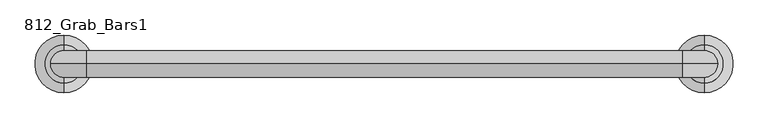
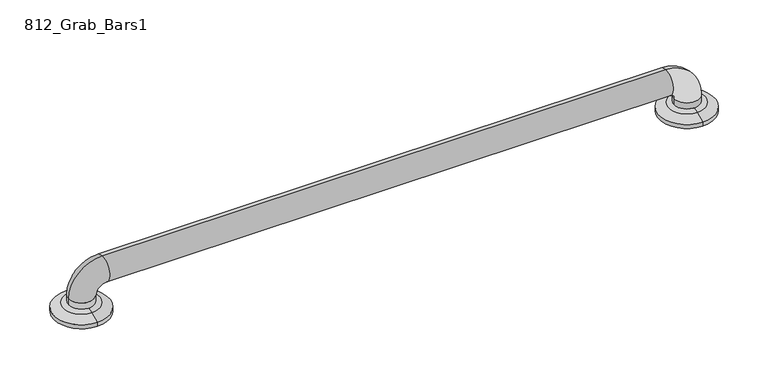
"""IFC4 building model written with IfcOpenShell, lengths in millimetres: proxy geometry, 812_Grab_Bars1 : 8122-001360."""

import ifcopenshell
import ifcopenshell.guid

model = None  # the IFC model being written
_history = None  # IfcOwnerHistory: only IFC2X3 demands one
_inside = {}  # id of a spatial element -> (the spatial element, [elements in it])
_under = {}  # id of a project, library or spatial element -> (it, [spatial elements below it])
_declared = {}  # id of a project -> (the project, [libraries it declares])
_typed = {}  # id of a type object -> (the type object, [elements of that type])
_made_of = {}  # id of a material, layer set ... -> (it, [elements and type objects made of it])


def new_model(schema):
    """Start an empty IFC model of exactly this schema.

    Asked for "IFC4X3", IfcOpenShell would pick the latest addendum, in which some entities
    have other attributes; the version numbers below select the first issue.
    IFC2X3 requires an IfcOwnerHistory on every rooted entity: one is made here for all.
    """
    global model, _history
    if schema == "IFC4X3":
        model = ifcopenshell.file(schema_version=(4, 3, 0, 0))
    else:
        model = ifcopenshell.file(schema=schema)
    _inside.clear()
    _under.clear()
    _declared.clear()
    _typed.clear()
    _made_of.clear()
    _history = None
    if model.schema == "IFC2X3":
        org = make("IfcOrganization", Name="unknown")
        user = make(
            "IfcPersonAndOrganization",
            ThePerson=make("IfcPerson", FamilyName="unknown"),
            TheOrganization=org,
        )
        app = make(
            "IfcApplication",
            ApplicationDeveloper=org,
            Version="unknown",
            ApplicationFullName="unknown",
            ApplicationIdentifier="unknown",
        )
        _history = make(
            "IfcOwnerHistory",
            OwningUser=user,
            OwningApplication=app,
            ChangeAction="ADDED",
            CreationDate=0,
        )
    return model


def make(cls, **values):
    """One entity of the class cls with the attributes given. An attribute that is None is left unset."""
    return model.create_entity(
        cls, **{name: value for name, value in values.items() if value is not None}
    )


def rooted(cls, **values):
    """An entity with a GlobalId (a new one), such as an element, a storey or a relation."""
    return make(cls, GlobalId=ifcopenshell.guid.new(), OwnerHistory=_history, **values)


def si_unit(unit_type, name, prefix=None):
    """IfcSIUnit, for example si_unit("LENGTHUNIT", "METRE", prefix="MILLI")."""
    return make("IfcSIUnit", UnitType=unit_type, Prefix=prefix, Name=name)


def assignment(units):
    """IfcUnitAssignment: the units of a project."""
    return None if units is None else make("IfcUnitAssignment", Units=units)


def point(xyz):
    """IfcCartesianPoint."""
    return None if xyz is None else make("IfcCartesianPoint", Coordinates=xyz)


def direction(xyz):
    """IfcDirection."""
    return None if xyz is None else make("IfcDirection", DirectionRatios=xyz)


def frame(location, z_axis=None, x_axis=None):
    """IfcAxis2Placement3D, a coordinate frame: its origin and axes. An axis left out is left unset."""
    return make(
        "IfcAxis2Placement3D",
        Location=point(location),
        Axis=direction(z_axis),
        RefDirection=direction(x_axis),
    )


def origin():
    """The frame at (0, 0, 0) with its axes left unset."""
    return frame((0.0, 0.0, 0.0))


def place(relative_to, where):
    """IfcLocalPlacement: puts the frame where relative to a parent placement (None: the world)."""
    return make(
        "IfcLocalPlacement", PlacementRelTo=relative_to, RelativePlacement=where
    )


def context(
    kind, dimensions, precision=None, world=None, true_north=None, identifier=None
):
    """IfcGeometricRepresentationContext, for example the 3D "Model" context."""
    return make(
        "IfcGeometricRepresentationContext",
        ContextIdentifier=identifier,
        ContextType=kind,
        CoordinateSpaceDimension=dimensions,
        Precision=precision,
        WorldCoordinateSystem=world,
        TrueNorth=true_north,
    )


def project(units=None, contexts=None):
    """IfcProject with its units and contexts."""
    return rooted(
        "IfcProject",
        Name="project",
        RepresentationContexts=contexts,
        UnitsInContext=assignment(units),
    )


def spatial(cls, under=None, at=None, **own):
    """A site, building, storey or space (cls), placed at a placement, below another one or the project."""
    s = rooted(cls, ObjectPlacement=at, **own)
    if under is not None:
        _under.setdefault(under.id(), (under, []))[1].append(s)
    return s


def polyline(points):
    """IfcPolyline through the points."""
    return make("IfcPolyline", Points=[point(p) for p in points])


def circle_curve(where, radius):
    """IfcCircle in the frame where."""
    return make("IfcCircle", Position=where, Radius=radius)


def ellipse_curve(where, semi_axis1, semi_axis2):
    """IfcEllipse in the frame where."""
    return make(
        "IfcEllipse", Position=where, SemiAxis1=semi_axis1, SemiAxis2=semi_axis2
    )


def trimmed(basis, trim1, trim2, sense, master):
    """IfcTrimmedCurve: the piece of a basis curve between two trims."""
    return make(
        "IfcTrimmedCurve",
        BasisCurve=basis,
        Trim1=trim1,
        Trim2=trim2,
        SenseAgreement=sense,
        MasterRepresentation=master,
    )


def shape(context_of_items, identifier, shape_type, items):
    """IfcShapeRepresentation: the items that make up one representation, for example the "Body"."""
    return make(
        "IfcShapeRepresentation",
        ContextOfItems=context_of_items,
        RepresentationIdentifier=identifier,
        RepresentationType=shape_type,
        Items=items,
    )


def source(mapping_origin, context_of_items, identifier, shape_type, items):
    """IfcRepresentationMap: a shape defined once, which mapped items show again and again."""
    return make(
        "IfcRepresentationMap",
        MappingOrigin=mapping_origin,
        MappedRepresentation=shape(context_of_items, identifier, shape_type, items),
    )


def transform(
    local_origin,
    x_axis=None,
    y_axis=None,
    z_axis=None,
    scale=None,
    scale2=None,
    scale3=None,
    uniform=True,
):
    """IfcCartesianTransformationOperator3D, or its non-uniform kind. x_axis, y_axis, z_axis: its Axis1, 2, 3."""
    if uniform:
        return make(
            "IfcCartesianTransformationOperator3D",
            Axis1=direction(x_axis),
            Axis2=direction(y_axis),
            LocalOrigin=point(local_origin),
            Scale=scale,
            Axis3=direction(z_axis),
        )
    return make(
        "IfcCartesianTransformationOperator3DnonUniform",
        Axis1=direction(x_axis),
        Axis2=direction(y_axis),
        LocalOrigin=point(local_origin),
        Scale=scale,
        Axis3=direction(z_axis),
        Scale2=scale2,
        Scale3=scale3,
    )


def mapped(mapping_source, mapping_target):
    """IfcMappedItem: shows the shape of a source again, moved by a transform."""
    return make(
        "IfcMappedItem", MappingSource=mapping_source, MappingTarget=mapping_target
    )


def made_of(thing, what):
    """Note that an element or type object is made of a material, layer set ...; save() writes the relation."""
    if what is not None:
        _made_of.setdefault(what.id(), (what, []))[1].append(thing)
    return thing


def element(
    cls,
    number,
    at=None,
    inside=None,
    cuts=None,
    type_object=None,
    material=None,
    context=None,
    identifier="Body",
    shape_type=None,
    held_by="IfcProductDefinitionShape",
    body=None,
    shapes=None,
    **own,
):
    """One element of the class cls, such as IfcWall. Its Tag is "e" and its number.

    at: its placement. inside: the storey or other place that contains it. cuts: it is an
    opening in that element (IfcRelVoidsElement). A single representation is given by context,
    identifier, shape_type and body (its items); several are given by shapes. held_by: the class
    of the entity that holds the representations. save() writes the other relations.
    """
    e = rooted(cls, Tag="e%d" % number, ObjectPlacement=at, **own)
    if body is not None:
        shapes = [shape(context, identifier, shape_type, body)]
    if shapes is not None:
        e.Representation = make(held_by, Representations=shapes)
    if inside is not None:
        _inside.setdefault(inside.id(), (inside, []))[1].append(e)
    if cuts is not None:
        rooted(
            "IfcRelVoidsElement", RelatingBuildingElement=cuts, RelatedOpeningElement=e
        )
    if type_object is not None:
        _typed.setdefault(type_object.id(), (type_object, []))[1].append(e)
    return made_of(e, material)


def aggregate(whole, parts):
    """IfcRelAggregates: a whole, such as a stair, and the parts it consists of."""
    return rooted("IfcRelAggregates", RelatingObject=whole, RelatedObjects=parts)


def save(model, path):
    """Write the relations noted so far, then the file.

    IfcRelAggregates (storeys below a building ...), IfcRelContainedInSpatialStructure (elements
    in a storey), IfcRelDefinesByType, IfcRelAssociatesMaterial and IfcRelDeclares: one each for
    every whole, place, type object, material and project.
    """
    for whole, parts in _under.values():
        aggregate(whole, parts)
    for where, things in _inside.values():
        rooted(
            "IfcRelContainedInSpatialStructure",
            RelatedElements=things,
            RelatingStructure=where,
        )
    for kind, things in _typed.values():
        rooted("IfcRelDefinesByType", RelatedObjects=things, RelatingType=kind)
    for what, things in _made_of.values():
        rooted("IfcRelAssociatesMaterial", RelatedObjects=things, RelatingMaterial=what)
    for by, libraries in _declared.values():
        rooted("IfcRelDeclares", RelatingContext=by, RelatedDefinitions=libraries)
    model.write(path)


def plane_surface(at):
    """IfcPlane: the flat surface through the origin of the frame at, square to its z axis."""
    return make("IfcPlane", Position=at)


def cylinder_surface(at, radius):
    """IfcCylindricalSurface: all points at the distance radius from the z axis of the frame at."""
    return make("IfcCylindricalSurface", Position=at, Radius=radius)


def revolved_surface(curve, axis_point, axis_direction):
    """IfcSurfaceOfRevolution: the curve turned about the line through axis_point along axis_direction."""
    return make(
        "IfcSurfaceOfRevolution",
        SweptCurve=make("IfcArbitraryOpenProfileDef", ProfileType="CURVE", Curve=curve),
        AxisPosition=make("IfcAxis1Placement", Location=point(axis_point), Axis=direction(axis_direction)),
    )


def advanced_brep(points, edges, surfaces, faces):
    """IfcAdvancedBrep: a solid bounded by faces that lie on surfaces and meet in shared edges.

    An edge is (start, end): straight between two places in points (the first is 0);
    or (start, end, curve); or (start, end, curve, False) where it runs against its curve.
    A face is (place in surfaces, loops), or (place, loops, False) where it looks against
    its surface's normal. A loop lists edges by number (the first is 1), with a minus sign
    where the edge is run from its end to its start. The first loop is the outer one.
    """
    corners = [point(p) for p in points]
    vertices = [make("IfcVertexPoint", VertexGeometry=c) for c in corners]
    made = []
    for start, end, *more in edges:
        made.append(
            make(
                "IfcEdgeCurve",
                EdgeStart=vertices[start],
                EdgeEnd=vertices[end],
                EdgeGeometry=more[0] if more else make("IfcPolyline", Points=[corners[start], corners[end]]),
                SameSense=more[1] if len(more) > 1 else True,
            )
        )
    hull = []
    for where, loops, *sense in faces:
        bounds = []
        for j, loop in enumerate(loops):
            ring = [make("IfcOrientedEdge", EdgeElement=made[abs(k) - 1], Orientation=k > 0) for k in loop]
            bounds.append(
                make(
                    "IfcFaceOuterBound" if j == 0 else "IfcFaceBound",
                    Bound=make("IfcEdgeLoop", EdgeList=ring),
                    Orientation=True,
                )
            )
        hull.append(make("IfcAdvancedFace", Bounds=bounds, FaceSurface=surfaces[where], SameSense=sense[0] if sense else True))
    return make("IfcAdvancedBrep", Outer=make("IfcClosedShell", CfsFaces=hull))


def proxy_812_grab_bars1_0ab72b95(model_context):
    return source(origin(), model_context, "Body", "AdvancedBrep", [
        advanced_brep(
        [(-401.6375, 564.1630987, 13.1934507), (-401.6375, 577.85, 6.35), (-401.6375, 495.3, 6.35), (-401.6375, 508.9869013, 13.1934507), (-401.6375, 517.525, 15.7178454), (-420.6875, 536.575, 15.7178454), (-401.6375, 555.625, 15.7178454), (-382.5875, 536.575, 15.7178454), (-401.6375, 577.85, 0.0), (-401.6375, 555.625, 0.0), (-401.6375, 536.575, 0.0), (-401.6375, 517.525, 0.0), (-401.6375, 495.3, 0.0), (-420.6875, 536.575, 25.4), (-382.5875, 536.575, 25.4), (-369.8875, 536.575, 38.1), (-369.8875, 536.575, 76.2), (481.0125, 536.575, 38.1), (481.0125, 536.575, 76.2), (493.7125, 536.575, 25.4), (531.8125, 536.575, 25.4), (512.7625, 577.85, 0.0), (512.7625, 495.3, 0.0), (493.7125, 536.575, 15.7178454), (512.7625, 517.525, 15.7178454), (531.8125, 536.575, 15.7178454), (512.7625, 555.625, 15.7178454), (512.7625, 564.1630987, 13.1934507), (512.7625, 577.85, 6.35), (512.7625, 495.3, 6.35), (512.7625, 508.9869013, 13.1934507)],
        [
            (0, 1),
            (1, 2, circle_curve(frame((-401.6375, 536.575, 6.35), z_axis=(0.0, 0.0, 1.0), x_axis=(0.0, -1.0, 0.0)), 41.275)),
            (2, 3),
            (3, 0, circle_curve(frame((-401.6375, 536.575, 13.1934507), z_axis=(0.0, 0.0, -1.0), x_axis=(0.0, -1.0, 0.0)), 27.5880987)),
            (2, 1, circle_curve(frame((-401.6375, 536.575, 6.35), z_axis=(0.0, 0.0, 1.0), x_axis=(0.0, -1.0, 0.0)), 41.275)),
            (0, 3, circle_curve(frame((-401.6375, 536.575, 13.1934507), z_axis=(0.0, 0.0, -1.0), x_axis=(0.0, -1.0, 0.0)), 27.5880987)),
            (3, 4, circle_curve(frame((-401.6375, 520.3461266, -9.525), z_axis=(-1.0, 0.0, 0.0), x_axis=(0.0, 0.0, -1.0)), 25.4)),
            (4, 5, circle_curve(frame((-401.6375, 536.575, 15.7178454), z_axis=(0.0, 0.0, -1.0), x_axis=(0.0, -1.0, 0.0)), 19.05)),
            (5, 6, circle_curve(frame((-401.6375, 536.575, 15.7178454), z_axis=(0.0, 0.0, -1.0), x_axis=(0.0, -1.0, 0.0)), 19.05)),
            (6, 0, circle_curve(frame((-401.6375, 552.8038734, -9.525), z_axis=(-1.0, 0.0, 0.0), x_axis=(0.0, 0.0, -1.0)), 25.4)),
            (6, 7, circle_curve(frame((-401.6375, 536.575, 15.7178454), z_axis=(0.0, 0.0, -1.0), x_axis=(0.0, -1.0, 0.0)), 19.05)),
            (7, 4, circle_curve(frame((-401.6375, 536.575, 15.7178454), z_axis=(0.0, 0.0, -1.0), x_axis=(0.0, -1.0, 0.0)), 19.05)),
            (8, 9),
            (9, 10),
            (10, 11),
            (11, 12),
            (12, 8, circle_curve(frame((-401.6375, 536.575, 0.0), z_axis=(0.0, 0.0, -1.0), x_axis=(0.0, -1.0, 0.0)), 41.275)),
            (8, 12, circle_curve(frame((-401.6375, 536.575, 0.0), z_axis=(0.0, 0.0, -1.0), x_axis=(0.0, -1.0, 0.0)), 41.275)),
            (1, 8),
            (12, 2),
            (13, 5),
            (7, 14),
            (14, 13, circle_curve(frame((-401.6375, 536.575, 25.4), z_axis=(0.0, 0.0, -1.0), x_axis=(1.0, 0.0, 0.0)), 19.05)),
            (13, 14, circle_curve(frame((-401.6375, 536.575, 25.4), z_axis=(0.0, 0.0, -1.0), x_axis=(1.0, 0.0, 0.0)), 19.05)),
            (14, 15, circle_curve(frame((-369.8875, 536.575, 25.4), z_axis=(0.0, 1.0, 0.0), x_axis=(-1.0, 0.0, 0.0)), 12.7)),
            (15, 16, circle_curve(frame((-369.8875, 536.575, 57.15), z_axis=(-1.0, 0.0, 0.0), x_axis=(0.0, 0.0, -1.0)), 19.05)),
            (16, 13, circle_curve(frame((-369.8875, 536.575, 25.4), z_axis=(0.0, -1.0, 0.0), x_axis=(-1.0, 0.0, 0.0)), 50.8)),
            (16, 15, circle_curve(frame((-369.8875, 536.575, 57.15), z_axis=(-1.0, 0.0, 0.0), x_axis=(0.0, 0.0, -1.0)), 19.05)),
            (15, 17),
            (17, 18, circle_curve(frame((481.0125, 536.575, 57.15), z_axis=(-1.0, 0.0, 0.0), x_axis=(0.0, 0.0, -1.0)), 19.05)),
            (18, 16),
            (18, 17, circle_curve(frame((481.0125, 536.575, 57.15), z_axis=(-1.0, 0.0, 0.0), x_axis=(0.0, 0.0, -1.0)), 19.05)),
            (17, 19, circle_curve(frame((481.0125, 536.575, 25.4), z_axis=(0.0, 1.0, 0.0), x_axis=(0.0, 0.0, 1.0)), 12.7)),
            (19, 20, circle_curve(frame((512.7625, 536.575, 25.4), z_axis=(0.0, 0.0, 1.0), x_axis=(-1.0, 0.0, 0.0)), 19.05)),
            (20, 18, circle_curve(frame((481.0125, 536.575, 25.4), z_axis=(0.0, -1.0, 0.0), x_axis=(0.0, 0.0, 1.0)), 50.8)),
            (20, 19, circle_curve(frame((512.7625, 536.575, 25.4), z_axis=(0.0, 0.0, 1.0), x_axis=(-1.0, 0.0, 0.0)), 19.05)),
            (21, 22, circle_curve(frame((512.7625, 536.575, 0.0), z_axis=(0.0, 0.0, -1.0), x_axis=(0.0, -1.0, 0.0)), 41.275)),
            (22, 21, circle_curve(frame((512.7625, 536.575, 0.0), z_axis=(0.0, 0.0, -1.0), x_axis=(0.0, -1.0, 0.0)), 41.275)),
            (19, 23),
            (23, 24, circle_curve(frame((512.7625, 536.575, 15.7178454), z_axis=(0.0, 0.0, 1.0), x_axis=(-1.0, 0.0, 0.0)), 19.05)),
            (24, 25, circle_curve(frame((512.7625, 536.575, 15.7178454), z_axis=(0.0, 0.0, 1.0), x_axis=(-1.0, 0.0, 0.0)), 19.05)),
            (25, 20),
            (25, 26, circle_curve(frame((512.7625, 536.575, 15.7178454), z_axis=(0.0, 0.0, 1.0), x_axis=(-1.0, 0.0, 0.0)), 19.05)),
            (26, 23, circle_curve(frame((512.7625, 536.575, 15.7178454), z_axis=(0.0, 0.0, 1.0), x_axis=(-1.0, 0.0, 0.0)), 19.05)),
            (27, 28),
            (28, 29, circle_curve(frame((512.7625, 536.575, 6.35), z_axis=(0.0, 0.0, 1.0), x_axis=(0.0, -1.0, 0.0)), 41.275)),
            (29, 30),
            (30, 27, circle_curve(frame((512.7625, 536.575, 13.1934507), z_axis=(0.0, 0.0, -1.0), x_axis=(0.0, -1.0, 0.0)), 27.5880987)),
            (29, 28, circle_curve(frame((512.7625, 536.575, 6.35), z_axis=(0.0, 0.0, 1.0), x_axis=(0.0, -1.0, 0.0)), 41.275)),
            (27, 30, circle_curve(frame((512.7625, 536.575, 13.1934507), z_axis=(0.0, 0.0, -1.0), x_axis=(0.0, -1.0, 0.0)), 27.5880987)),
            (30, 24, circle_curve(frame((512.7625, 520.3461266, -9.525), z_axis=(-1.0, 0.0, 0.0), x_axis=(0.0, 0.0, -1.0)), 25.4)),
            (26, 27, circle_curve(frame((512.7625, 552.8038734, -9.525), z_axis=(-1.0, 0.0, 0.0), x_axis=(0.0, 0.0, -1.0)), 25.4)),
            (28, 21),
            (22, 29),
        ],
        [
            revolved_surface(polyline([(-401.6375, 495.3, 6.35), (-401.6375, 508.9869013, 13.1934507)]), (-401.6375, 536.575, 31.75), (0.0, 0.0, 1.0)),
            revolved_surface(trimmed(ellipse_curve(frame((-401.6375, 520.3461266, -9.525), z_axis=(-1.0, 0.0, 0.0), x_axis=(0.0, 0.0, -1.0)), 25.4, 25.4), [point((-401.6375, 508.9869013, 13.1934507))], [point((-401.6375, 520.3461266, 15.875))], True, "CARTESIAN"), (-401.6375, 536.575, 31.75), (0.0, 0.0, 1.0)),
            plane_surface(frame((-401.6375, 536.575, 0.0), z_axis=(0.0, 0.0, -1.0), x_axis=(0.0, -1.0, 0.0))),
            cylinder_surface(frame((-401.6375, 536.575, 31.75), z_axis=(0.0, 0.0, 1.0), x_axis=(0.0, -1.0, 0.0)), 41.275),
            cylinder_surface(frame((-401.6375, 536.575, 0.0), z_axis=(0.0, 0.0, -1.0), x_axis=(1.0, 0.0, 0.0)), 19.05),
            revolved_surface(trimmed(ellipse_curve(frame((-401.6375, 536.575, 25.4), z_axis=(0.0, 0.0, 1.0), x_axis=(1.0, 0.0, 0.0)), 19.05, 19.05), [point((-420.6875, 536.575, 25.4))], [point((-382.5875, 536.575, 25.4))], True, "CARTESIAN"), (-369.8875, 536.575, 25.4), (0.0, -1.0, 0.0)),
            revolved_surface(trimmed(ellipse_curve(frame((-401.6375, 536.575, 25.4), z_axis=(0.0, 0.0, 1.0), x_axis=(1.0, 0.0, 0.0)), 19.05, 19.05), [point((-382.5875, 536.575, 25.4))], [point((-420.6875, 536.575, 25.4))], True, "CARTESIAN"), (-369.8875, 536.575, 25.4), (0.0, -1.0, 0.0)),
            cylinder_surface(frame((-369.8875, 536.575, 57.15), z_axis=(-1.0, 0.0, 0.0), x_axis=(0.0, 0.0, -1.0)), 19.05),
            revolved_surface(trimmed(ellipse_curve(frame((481.0125, 536.575, 57.15), z_axis=(1.0, 0.0, 0.0), x_axis=(0.0, 0.0, -1.0)), 19.05, 19.05), [point((481.0125, 536.575, 76.2))], [point((481.0125, 536.575, 38.1))], True, "CARTESIAN"), (481.0125, 536.575, 25.4), (0.0, -1.0, 0.0)),
            revolved_surface(trimmed(ellipse_curve(frame((481.0125, 536.575, 57.15), z_axis=(1.0, 0.0, 0.0), x_axis=(0.0, 0.0, -1.0)), 19.05, 19.05), [point((481.0125, 536.575, 38.1))], [point((481.0125, 536.575, 76.2))], True, "CARTESIAN"), (481.0125, 536.575, 25.4), (0.0, -1.0, 0.0)),
            plane_surface(frame((512.7625, 536.575, 0.0), z_axis=(0.0, 0.0, -1.0), x_axis=(0.0, -1.0, 0.0))),
            cylinder_surface(frame((512.7625, 536.575, 25.4), z_axis=(0.0, 0.0, 1.0), x_axis=(-1.0, 0.0, 0.0)), 19.05),
            revolved_surface(polyline([(512.7625, 495.3, 6.35), (512.7625, 508.9869013, 13.1934507)]), (512.7625, 536.575, -29.0642853), (0.0, 0.0, 1.0)),
            revolved_surface(trimmed(ellipse_curve(frame((512.7625, 520.3461266, -9.525), z_axis=(-1.0, 0.0, 0.0), x_axis=(0.0, 0.0, -1.0)), 25.4, 25.4), [point((512.7625, 508.9869013, 13.1934507))], [point((512.7625, 520.3461266, 15.875))], True, "CARTESIAN"), (512.7625, 536.575, -29.0642853), (0.0, 0.0, 1.0)),
            cylinder_surface(frame((512.7625, 536.575, -29.0642853), z_axis=(0.0, 0.0, 1.0), x_axis=(0.0, -1.0, 0.0)), 41.275),
        ],
        [
            (0, [[1, 2, 3, 4]]),
            (0, [[5, -1, 6, -3]]),
            (1, [[7, 8, 9, 10, -4]]),
            (1, [[-10, 11, 12, -7, -6]]),
            (2, [[13, 14, 15, 16, 17]]),
            (2, [[-16, -15, -14, -13, 18]]),
            (3, [[19, -17, 20, -2]]),
            (3, [[-20, -18, -19, -5]]),
            (4, [[21, -8, -12, 22, 23]]),
            (4, [[-22, -11, -9, -21, 24]]),
            (5, [[25, 26, 27, -23]]),
            (6, [[-27, 28, -25, -24]]),
            (7, [[29, 30, 31, -26]]),
            (7, [[-31, 32, -29, -28]]),
            (8, [[33, 34, 35, -30]]),
            (9, [[-35, 36, -33, -32]]),
            (10, [[37, 38]]),
            (11, [[39, 40, 41, 42, -34]]),
            (11, [[-42, 43, 44, -39, -36]]),
            (12, [[45, 46, 47, 48]]),
            (12, [[49, -45, 50, -47]]),
            (13, [[51, -40, -44, 52, -48]]),
            (13, [[-52, -43, -41, -51, -50]]),
            (14, [[53, -38, 54, -46]]),
            (14, [[-54, -37, -53, -49]]),
        ],
    ),
    ])


if __name__ == "__main__":
    model = new_model("IFC4")
    model_context = context("Model", 3, world=origin())
    ifc_project = project(units=[si_unit("LENGTHUNIT", "METRE", prefix="MILLI")], contexts=[model_context])
    site = spatial("IfcSite", under=ifc_project)
    building = spatial("IfcBuilding", under=site)
    placement = place(None, origin())
    proxy_812_grab_bars1_shape = proxy_812_grab_bars1_0ab72b95(model_context)
    element("IfcBuildingElementProxy", 1, Name="812_Grab_Bars1 : 8122-001360", ObjectType="812_Grab_Bars1 : 8122-001360", at=placement, inside=building, context=model_context, shape_type="MappedRepresentation", body=[
        mapped(proxy_812_grab_bars1_shape, transform((0.0, 0.0, 0.0), x_axis=(1.0, 0.0, 0.0), y_axis=(0.0, 1.0, 0.0), z_axis=(0.0, 0.0, 1.0))),
    ])
    save(model, "model.ifc")
